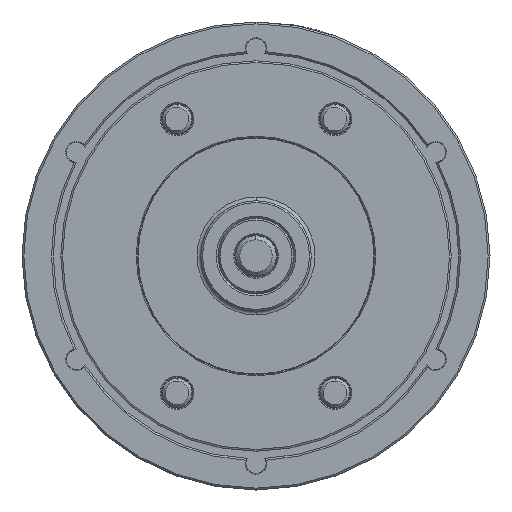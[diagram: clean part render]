
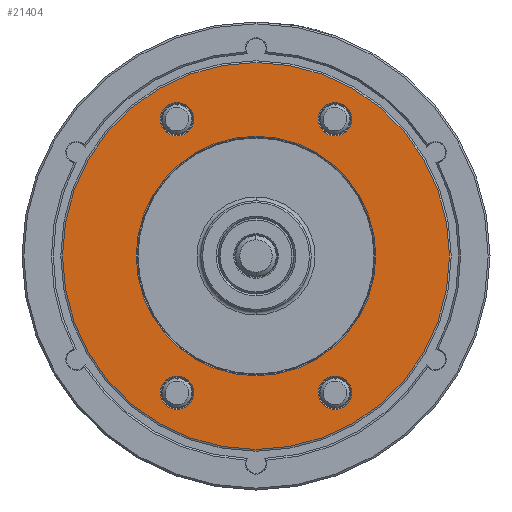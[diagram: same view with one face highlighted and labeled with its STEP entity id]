
A CAD part, left-side view. The second image highlights one B-rep face of the part: STEP entity #21404.
In plain terms, the highlighted planar face has unit normal (-1, 0, 0).
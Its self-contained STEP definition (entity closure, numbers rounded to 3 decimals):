
#607 = AXIS2_PLACEMENT_3D ( 'NONE', #13944, #13793, #13483 ) ;
#1249 = VERTEX_POINT ( 'NONE', #7912 ) ;
#1494 = FACE_BOUND ( 'NONE', #9314, .T. ) ;
#1592 = AXIS2_PLACEMENT_3D ( 'NONE', #4949, #4900, #4840 ) ;
#1754 = CARTESIAN_POINT ( 'NONE',  ( -100., 42.863, -83.34 ) ) ;
#2056 = CARTESIAN_POINT ( 'NONE',  ( -100., 42.862, 65.14 ) ) ;
#2192 = AXIS2_PLACEMENT_3D ( 'NONE', #31866, #31803, #31765 ) ;
#2371 = AXIS2_PLACEMENT_3D ( 'NONE', #3284, #3236, #29882 ) ;
#2736 = EDGE_LOOP ( 'NONE', ( #35710, #33289 ) ) ;
#3146 = EDGE_LOOP ( 'NONE', ( #13860, #11204 ) ) ;
#3236 = DIRECTION ( 'NONE',  ( 1., 0., 0. ) ) ;
#3284 = CARTESIAN_POINT ( 'NONE',  ( -100., -42.862, 74.24 ) ) ;
#4500 = AXIS2_PLACEMENT_3D ( 'NONE', #12367, #12219, #12059 ) ;
#4837 = FACE_OUTER_BOUND ( 'NONE', #5680, .T. ) ;
#4840 = DIRECTION ( 'NONE',  ( 0., 0., -1. ) ) ;
#4900 = DIRECTION ( 'NONE',  ( 1., 0., 0. ) ) ;
#4949 = CARTESIAN_POINT ( 'NONE',  ( -100., -42.863, -74.24 ) ) ;
#5181 = CIRCLE ( 'NONE', #607, 105. ) ;
#5329 = CARTESIAN_POINT ( 'NONE',  ( -100., 0., 65. ) ) ;
#5680 = EDGE_LOOP ( 'NONE', ( #18089, #14401 ) ) ;
#6171 = VERTEX_POINT ( 'NONE', #23338 ) ;
#6881 = EDGE_LOOP ( 'NONE', ( #24547, #22695 ) ) ;
#7792 = FACE_BOUND ( 'NONE', #6881, .T. ) ;
#7912 = CARTESIAN_POINT ( 'NONE',  ( -100., -42.862, 83.34 ) ) ;
#7988 = VERTEX_POINT ( 'NONE', #29235 ) ;
#9027 = DIRECTION ( 'NONE',  ( 0., 0., -1. ) ) ;
#9082 = DIRECTION ( 'NONE',  ( 1., 0., 0. ) ) ;
#9135 = CARTESIAN_POINT ( 'NONE',  ( -100., 42.862, 74.24 ) ) ;
#9314 = EDGE_LOOP ( 'NONE', ( #22197, #35790 ) ) ;
#9689 = AXIS2_PLACEMENT_3D ( 'NONE', #31698, #31642, #31607 ) ;
#9972 = AXIS2_PLACEMENT_3D ( 'NONE', #29683, #29621, #29581 ) ;
#10500 = CARTESIAN_POINT ( 'NONE',  ( -100., 42.862, 83.34 ) ) ;
#11204 = ORIENTED_EDGE ( 'NONE', *, *, #32600, .T. ) ;
#11487 = VERTEX_POINT ( 'NONE', #5329 ) ;
#12059 = DIRECTION ( 'NONE',  ( 0., 0., -1. ) ) ;
#12219 = DIRECTION ( 'NONE',  ( 1., 0., 0. ) ) ;
#12367 = CARTESIAN_POINT ( 'NONE',  ( -100., 42.863, -74.24 ) ) ;
#13483 = DIRECTION ( 'NONE',  ( 0., 1., 0. ) ) ;
#13793 = DIRECTION ( 'NONE',  ( 1., 0., 0. ) ) ;
#13860 = ORIENTED_EDGE ( 'NONE', *, *, #34171, .T. ) ;
#13896 = CIRCLE ( 'NONE', #16737, 65. ) ;
#13944 = CARTESIAN_POINT ( 'NONE',  ( -100., 0., 0. ) ) ;
#14138 = AXIS2_PLACEMENT_3D ( 'NONE', #33784, #33725, #33687 ) ;
#14239 = CIRCLE ( 'NONE', #4500, 9.1 ) ;
#14401 = ORIENTED_EDGE ( 'NONE', *, *, #32680, .F. ) ;
#14448 = VERTEX_POINT ( 'NONE', #10500 ) ;
#15714 = FACE_BOUND ( 'NONE', #3146, .T. ) ;
#16653 = VERTEX_POINT ( 'NONE', #2056 ) ;
#16737 = AXIS2_PLACEMENT_3D ( 'NONE', #39583, #39523, #39422 ) ;
#17507 = VERTEX_POINT ( 'NONE', #38726 ) ;
#17689 = AXIS2_PLACEMENT_3D ( 'NONE', #28404, #28396, #28340 ) ;
#17896 = AXIS2_PLACEMENT_3D ( 'NONE', #29515, #29449, #29417 ) ;
#18089 = ORIENTED_EDGE ( 'NONE', *, *, #34603, .F. ) ;
#19773 = CIRCLE ( 'NONE', #21920, 9.1 ) ;
#21404 = ADVANCED_FACE ( 'NONE', ( #4837, #15714, #35202, #7792, #1494, #25229 ), #32537, .F. ) ;
#21920 = AXIS2_PLACEMENT_3D ( 'NONE', #9135, #9082, #9027 ) ;
#22197 = ORIENTED_EDGE ( 'NONE', *, *, #26705, .T. ) ;
#22695 = ORIENTED_EDGE ( 'NONE', *, *, #32752, .T. ) ;
#23338 = CARTESIAN_POINT ( 'NONE',  ( -100., 42.863, -65.14 ) ) ;
#23397 = CARTESIAN_POINT ( 'NONE',  ( -100., -42.862, 65.14 ) ) ;
#23445 = EDGE_CURVE ( 'NONE', #14448, #16653, #19773, .T. ) ;
#24009 = VERTEX_POINT ( 'NONE', #44445 ) ;
#24547 = ORIENTED_EDGE ( 'NONE', *, *, #28840, .T. ) ;
#24826 = VERTEX_POINT ( 'NONE', #23397 ) ;
#25229 = FACE_BOUND ( 'NONE', #2736, .T. ) ;
#26183 = VERTEX_POINT ( 'NONE', #42732 ) ;
#26289 = ORIENTED_EDGE ( 'NONE', *, *, #32684, .T. ) ;
#26705 = EDGE_CURVE ( 'NONE', #1249, #24826, #28046, .T. ) ;
#28046 = CIRCLE ( 'NONE', #2371, 9.1 ) ;
#28340 = DIRECTION ( 'NONE',  ( 0., 0., -1. ) ) ;
#28396 = DIRECTION ( 'NONE',  ( 1., 0., 0. ) ) ;
#28404 = CARTESIAN_POINT ( 'NONE',  ( -100., 42.862, 74.24 ) ) ;
#28840 = EDGE_CURVE ( 'NONE', #24009, #26183, #42213, .T. ) ;
#29235 = CARTESIAN_POINT ( 'NONE',  ( -100., 0., -65. ) ) ;
#29300 = ORIENTED_EDGE ( 'NONE', *, *, #31530, .T. ) ;
#29417 = DIRECTION ( 'NONE',  ( 0., 0., -1. ) ) ;
#29449 = DIRECTION ( 'NONE',  ( 1., 0., 0. ) ) ;
#29515 = CARTESIAN_POINT ( 'NONE',  ( -100., -42.863, -74.24 ) ) ;
#29581 = DIRECTION ( 'NONE',  ( 0., 0., -1. ) ) ;
#29621 = DIRECTION ( 'NONE',  ( 1., 0., 0. ) ) ;
#29683 = CARTESIAN_POINT ( 'NONE',  ( -100., -42.862, 74.24 ) ) ;
#29757 = DIRECTION ( 'NONE',  ( 0., 1., 0. ) ) ;
#29822 = DIRECTION ( 'NONE',  ( 1., 0., 0. ) ) ;
#29882 = DIRECTION ( 'NONE',  ( 0., 0., -1. ) ) ;
#29987 = CARTESIAN_POINT ( 'NONE',  ( -100., -105., 0. ) ) ;
#31530 = EDGE_CURVE ( 'NONE', #6171, #34887, #14239, .T. ) ;
#31607 = DIRECTION ( 'NONE',  ( 0., 0., -1. ) ) ;
#31642 = DIRECTION ( 'NONE',  ( 1., 0., 0. ) ) ;
#31698 = CARTESIAN_POINT ( 'NONE',  ( -100., 42.863, -74.24 ) ) ;
#31765 = DIRECTION ( 'NONE',  ( 0., 1., 0. ) ) ;
#31803 = DIRECTION ( 'NONE',  ( 1., 0., 0. ) ) ;
#31866 = CARTESIAN_POINT ( 'NONE',  ( -100., 0., 0. ) ) ;
#32537 = PLANE ( 'NONE',  #37064 ) ;
#32600 = EDGE_CURVE ( 'NONE', #7988, #11487, #39685, .T. ) ;
#32680 = EDGE_CURVE ( 'NONE', #39866, #17507, #39462, .T. ) ;
#32684 = EDGE_CURVE ( 'NONE', #34887, #6171, #39062, .T. ) ;
#32747 = EDGE_CURVE ( 'NONE', #24826, #1249, #37851, .T. ) ;
#32752 = EDGE_CURVE ( 'NONE', #26183, #24009, #38162, .T. ) ;
#32812 = EDGE_CURVE ( 'NONE', #16653, #14448, #37488, .T. ) ;
#33289 = ORIENTED_EDGE ( 'NONE', *, *, #32812, .T. ) ;
#33687 = DIRECTION ( 'NONE',  ( 0., 1., 0. ) ) ;
#33725 = DIRECTION ( 'NONE',  ( 1., 0., 0. ) ) ;
#33784 = CARTESIAN_POINT ( 'NONE',  ( -100., 0., 0. ) ) ;
#34171 = EDGE_CURVE ( 'NONE', #11487, #7988, #13896, .T. ) ;
#34603 = EDGE_CURVE ( 'NONE', #17507, #39866, #5181, .T. ) ;
#34887 = VERTEX_POINT ( 'NONE', #1754 ) ;
#35202 = FACE_BOUND ( 'NONE', #44706, .T. ) ;
#35710 = ORIENTED_EDGE ( 'NONE', *, *, #23445, .T. ) ;
#35790 = ORIENTED_EDGE ( 'NONE', *, *, #32747, .T. ) ;
#37064 = AXIS2_PLACEMENT_3D ( 'NONE', #29987, #29822, #29757 ) ;
#37097 = CARTESIAN_POINT ( 'NONE',  ( -100., 0., 105. ) ) ;
#37488 = CIRCLE ( 'NONE', #17689, 9.1 ) ;
#37851 = CIRCLE ( 'NONE', #9972, 9.1 ) ;
#38162 = CIRCLE ( 'NONE', #17896, 9.1 ) ;
#38726 = CARTESIAN_POINT ( 'NONE',  ( -100., 0., -105. ) ) ;
#39062 = CIRCLE ( 'NONE', #9689, 9.1 ) ;
#39422 = DIRECTION ( 'NONE',  ( 0., 1., 0. ) ) ;
#39462 = CIRCLE ( 'NONE', #2192, 105. ) ;
#39523 = DIRECTION ( 'NONE',  ( 1., 0., 0. ) ) ;
#39583 = CARTESIAN_POINT ( 'NONE',  ( -100., 0., 0. ) ) ;
#39685 = CIRCLE ( 'NONE', #14138, 65. ) ;
#39866 = VERTEX_POINT ( 'NONE', #37097 ) ;
#42213 = CIRCLE ( 'NONE', #1592, 9.1 ) ;
#42732 = CARTESIAN_POINT ( 'NONE',  ( -100., -42.863, -83.34 ) ) ;
#44445 = CARTESIAN_POINT ( 'NONE',  ( -100., -42.863, -65.14 ) ) ;
#44706 = EDGE_LOOP ( 'NONE', ( #29300, #26289 ) ) ;
